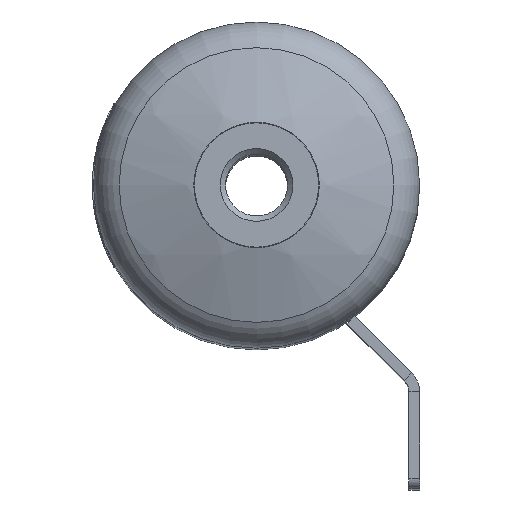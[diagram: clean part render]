
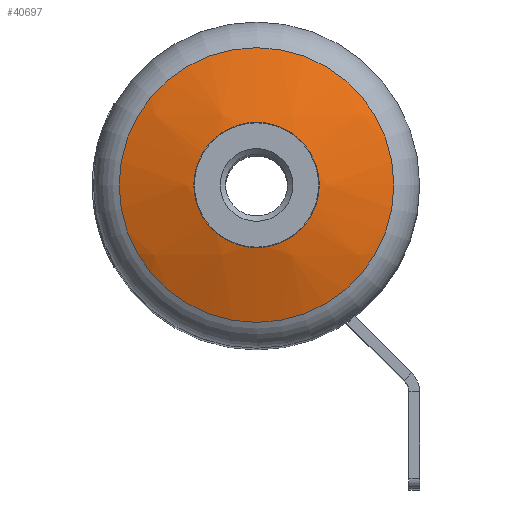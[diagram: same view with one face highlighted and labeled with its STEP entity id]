
A CAD part, top view. The second image highlights one B-rep face of the part: STEP entity #40697.
In plain terms, the highlighted spherical face has radius 62.3 mm.
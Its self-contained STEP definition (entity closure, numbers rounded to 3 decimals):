
#4182=SPHERICAL_SURFACE('',#43235,62.3);
#10455=FACE_BOUND('',#13100,.T.);
#10709=FACE_OUTER_BOUND('',#13099,.T.);
#13099=EDGE_LOOP('',(#27155));
#13100=EDGE_LOOP('',(#27156));
#15729=CIRCLE('',#43225,11.6);
#15734=CIRCLE('',#43233,25.393);
#16458=VERTEX_POINT('',#51460);
#16463=VERTEX_POINT('',#51475);
#20729=EDGE_CURVE('',#16458,#16458,#15729,.T.);
#20735=EDGE_CURVE('',#16463,#16463,#15734,.T.);
#27155=ORIENTED_EDGE('',*,*,#20735,.T.);
#27156=ORIENTED_EDGE('',*,*,#20729,.T.);
#40697=ADVANCED_FACE('',(#10709,#10455),#4182,.T.);
#43225=AXIS2_PLACEMENT_3D('',#51462,#45014,#45015);
#43233=AXIS2_PLACEMENT_3D('',#51476,#45031,#45032);
#43235=AXIS2_PLACEMENT_3D('',#51478,#45035,#45036);
#45014=DIRECTION('center_axis',(0.,-1.,0.));
#45015=DIRECTION('ref_axis',(1.,0.,0.));
#45031=DIRECTION('center_axis',(0.,1.,0.));
#45032=DIRECTION('ref_axis',(1.,0.,0.));
#45035=DIRECTION('center_axis',(0.,0.,1.));
#45036=DIRECTION('ref_axis',(1.,0.,0.));
#51460=CARTESIAN_POINT('',(-11.6,61.211,0.));
#51462=CARTESIAN_POINT('Origin',(0.,61.211,0.));
#51475=CARTESIAN_POINT('',(0.,56.89,-25.393));
#51476=CARTESIAN_POINT('Origin',(0.,56.89,0.));
#51478=CARTESIAN_POINT('Origin',(0.,0.,0.));
